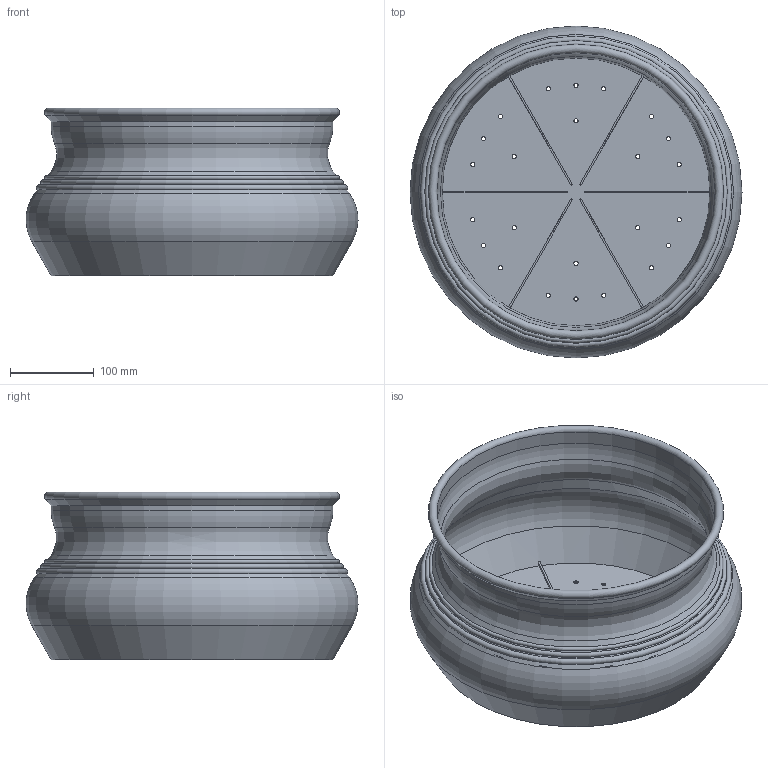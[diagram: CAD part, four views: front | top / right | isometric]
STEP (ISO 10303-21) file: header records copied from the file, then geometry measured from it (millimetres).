
FILE_DESCRIPTION(/* description */ (''),/* implementation_level */ '2;1');
FILE_NAME(/* name */ 'LR2406-S20-H200-D400_step.step',/* time_stamp */ '2024-02-01T11:02:21+01:00',/* author */ (''),/* organization */ (''),/* preprocessor_version */ 'ST-DEVELOPER v20',/* originating_system */ 'Autodesk Translation Framework v12.20.1.177',/* authorisation */ '');
FILE_SCHEMA (('AUTOMOTIVE_DESIGN { 1 0 10303 214 3 1 1 }'));
Length unit declared in the file: millimetre
Products named in the file (1): LR2406-S20-H200-D400
Bounding box: 395.98 x 395.98 x 200 mm (x, y, z)
Volume: 789140.6 mm3; surface area: 686690.3 mm2
Topology: 1 solids, 1 shells, 70 faces, 185 edges, 117 vertices
Faces by surface type: cylinder 32, plane 20, torus 10, cone 8
Full cylindrical faces by diameter (mm): 5 x24, 332 x1, 336 x1
Entity records: 2336 total; most frequent: DIRECTION 430, CARTESIAN_POINT 373, ORIENTED_EDGE 370, EDGE_CURVE 185, AXIS2_PLACEMENT_3D 174, EDGE_LOOP 118, VERTEX_POINT 117, CIRCLE 103
